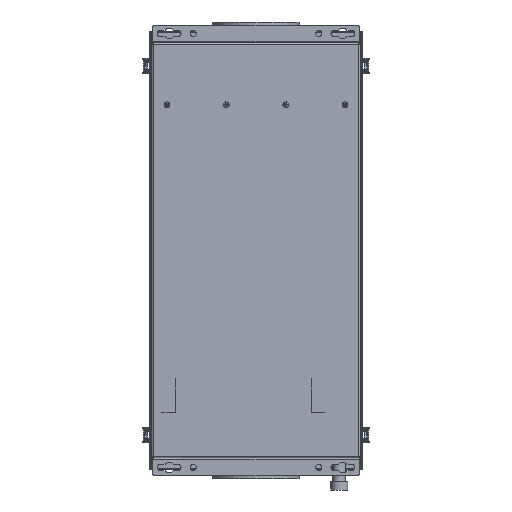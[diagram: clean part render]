
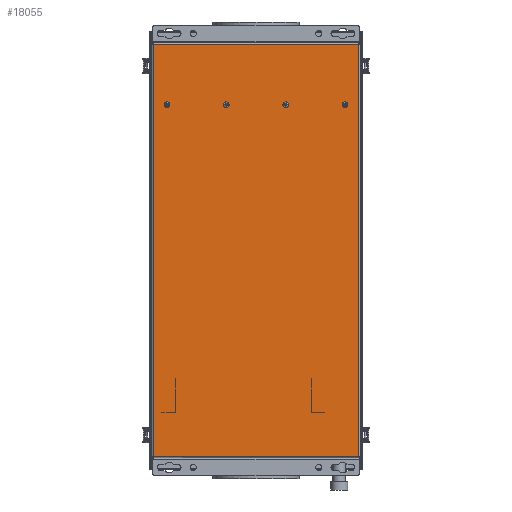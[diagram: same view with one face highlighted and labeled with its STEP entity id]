
A CAD part, front view. The second image highlights one B-rep face of the part: STEP entity #18055.
In plain terms, the highlighted planar face has unit normal (0, -1, 0).
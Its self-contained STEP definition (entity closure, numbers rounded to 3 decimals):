
#86 = EDGE_CURVE ( 'NONE', #4334, #3859, #12005, .T. ) ;
#271 = VERTEX_POINT ( 'NONE', #11266 ) ;
#395 = DIRECTION ( 'NONE',  ( -1., 0., 0. ) ) ;
#560 = ORIENTED_EDGE ( 'NONE', *, *, #17850, .F. ) ;
#1111 = AXIS2_PLACEMENT_3D ( 'NONE', #16011, #1800, #18436 ) ;
#1203 = VERTEX_POINT ( 'NONE', #4747 ) ;
#1277 = CIRCLE ( 'NONE', #28467, 2.1 ) ;
#1800 = DIRECTION ( 'NONE',  ( 0., -1., 0. ) ) ;
#2328 = DIRECTION ( 'NONE',  ( 0., 0., -1. ) ) ;
#2333 = EDGE_CURVE ( 'NONE', #1203, #18651, #9269, .T. ) ;
#2521 = CARTESIAN_POINT ( 'NONE',  ( -148., 0., -297. ) ) ;
#2577 = VERTEX_POINT ( 'NONE', #19123 ) ;
#3272 = CARTESIAN_POINT ( 'NONE',  ( -128., 0., 210. ) ) ;
#3440 = AXIS2_PLACEMENT_3D ( 'NONE', #19420, #5159, #21798 ) ;
#3486 = PLANE ( 'NONE',  #28997 ) ;
#3859 = VERTEX_POINT ( 'NONE', #23173 ) ;
#4174 = CARTESIAN_POINT ( 'NONE',  ( 148., 0., -297. ) ) ;
#4186 = VECTOR ( 'NONE', #395, 1000. ) ;
#4334 = VERTEX_POINT ( 'NONE', #20465 ) ;
#4451 = DIRECTION ( 'NONE',  ( 0., 0., 1. ) ) ;
#4707 = ORIENTED_EDGE ( 'NONE', *, *, #15666, .T. ) ;
#4747 = CARTESIAN_POINT ( 'NONE',  ( -42.667, 0., 212.1 ) ) ;
#4761 = EDGE_CURVE ( 'NONE', #18651, #1203, #24451, .T. ) ;
#5159 = DIRECTION ( 'NONE',  ( 0., -1., 0. ) ) ;
#5218 = AXIS2_PLACEMENT_3D ( 'NONE', #6258, #22875, #8646 ) ;
#5318 = ORIENTED_EDGE ( 'NONE', *, *, #86, .T. ) ;
#5443 = AXIS2_PLACEMENT_3D ( 'NONE', #3272, #19903, #5644 ) ;
#5487 = VECTOR ( 'NONE', #4451, 1000. ) ;
#5644 = DIRECTION ( 'NONE',  ( 0., 0., -1. ) ) ;
#6168 = EDGE_CURVE ( 'NONE', #271, #20555, #1277, .T. ) ;
#6235 = LINE ( 'NONE', #23459, #5487 ) ;
#6258 = CARTESIAN_POINT ( 'NONE',  ( 128., 0., 210. ) ) ;
#6449 = CARTESIAN_POINT ( 'NONE',  ( 128., 0., 207.9 ) ) ;
#6886 = EDGE_LOOP ( 'NONE', ( #24363, #24287 ) ) ;
#7395 = ORIENTED_EDGE ( 'NONE', *, *, #18391, .F. ) ;
#8371 = DIRECTION ( 'NONE',  ( 0., -1., 0. ) ) ;
#8416 = VERTEX_POINT ( 'NONE', #4174 ) ;
#8629 = DIRECTION ( 'NONE',  ( 0., -1., 0. ) ) ;
#8646 = DIRECTION ( 'NONE',  ( 0., 0., -1. ) ) ;
#9250 = VECTOR ( 'NONE', #16278, 1000. ) ;
#9269 = CIRCLE ( 'NONE', #28987, 2.1 ) ;
#10406 = ORIENTED_EDGE ( 'NONE', *, *, #10497, .T. ) ;
#10497 = EDGE_CURVE ( 'NONE', #3859, #16911, #28280, .T. ) ;
#10589 = ORIENTED_EDGE ( 'NONE', *, *, #6168, .F. ) ;
#10678 = DIRECTION ( 'NONE',  ( 0., -1., 0. ) ) ;
#10857 = VERTEX_POINT ( 'NONE', #30017 ) ;
#11232 = CARTESIAN_POINT ( 'NONE',  ( -42.667, 0., 207.9 ) ) ;
#11266 = CARTESIAN_POINT ( 'NONE',  ( -128., 0., 207.9 ) ) ;
#12005 = LINE ( 'NONE', #14590, #4186 ) ;
#12086 = FACE_OUTER_BOUND ( 'NONE', #30132, .T. ) ;
#12373 = EDGE_LOOP ( 'NONE', ( #22951, #25413 ) ) ;
#13970 = CARTESIAN_POINT ( 'NONE',  ( -128., 0., 210. ) ) ;
#14042 = CARTESIAN_POINT ( 'NONE',  ( -128., 0., 212.1 ) ) ;
#14590 = CARTESIAN_POINT ( 'NONE',  ( 148., 0., 297. ) ) ;
#15040 = CIRCLE ( 'NONE', #5218, 2.1 ) ;
#15419 = CARTESIAN_POINT ( 'NONE',  ( 150., 0., 299. ) ) ;
#15666 = EDGE_CURVE ( 'NONE', #8416, #4334, #6235, .T. ) ;
#15950 = EDGE_LOOP ( 'NONE', ( #10589, #7395 ) ) ;
#16011 = CARTESIAN_POINT ( 'NONE',  ( -42.667, 0., 210. ) ) ;
#16278 = DIRECTION ( 'NONE',  ( 0., 0., -1. ) ) ;
#16367 = DIRECTION ( 'NONE',  ( 0., 0., -1. ) ) ;
#16568 = DIRECTION ( 'NONE',  ( 0., -1., 0. ) ) ;
#16602 = VECTOR ( 'NONE', #20924, 1000. ) ;
#16911 = VERTEX_POINT ( 'NONE', #2521 ) ;
#17188 = AXIS2_PLACEMENT_3D ( 'NONE', #30859, #16568, #2328 ) ;
#17208 = EDGE_CURVE ( 'NONE', #21862, #10857, #15040, .T. ) ;
#17379 = AXIS2_PLACEMENT_3D ( 'NONE', #24967, #10678, #27363 ) ;
#17527 = EDGE_CURVE ( 'NONE', #21002, #2577, #18022, .T. ) ;
#17666 = FACE_BOUND ( 'NONE', #15950, .T. ) ;
#17850 = EDGE_CURVE ( 'NONE', #10857, #21862, #29261, .T. ) ;
#18022 = CIRCLE ( 'NONE', #17379, 2.1 ) ;
#18055 = ADVANCED_FACE ( 'NONE', ( #18425, #30353, #12086, #23982, #17666 ), #3486, .T. ) ;
#18188 = EDGE_CURVE ( 'NONE', #2577, #21002, #20272, .T. ) ;
#18391 = EDGE_CURVE ( 'NONE', #20555, #271, #26968, .T. ) ;
#18425 = FACE_BOUND ( 'NONE', #6886, .T. ) ;
#18436 = DIRECTION ( 'NONE',  ( 0., 0., -1. ) ) ;
#18651 = VERTEX_POINT ( 'NONE', #11232 ) ;
#18809 = EDGE_LOOP ( 'NONE', ( #19758, #560 ) ) ;
#19123 = CARTESIAN_POINT ( 'NONE',  ( 42.667, 0., 212.1 ) ) ;
#19420 = CARTESIAN_POINT ( 'NONE',  ( 128., 0., 210. ) ) ;
#19758 = ORIENTED_EDGE ( 'NONE', *, *, #17208, .F. ) ;
#19903 = DIRECTION ( 'NONE',  ( 0., -1., 0. ) ) ;
#20272 = CIRCLE ( 'NONE', #17188, 2.1 ) ;
#20465 = CARTESIAN_POINT ( 'NONE',  ( 148., 0., 297. ) ) ;
#20555 = VERTEX_POINT ( 'NONE', #14042 ) ;
#20924 = DIRECTION ( 'NONE',  ( 1., 0., 0. ) ) ;
#21002 = VERTEX_POINT ( 'NONE', #28102 ) ;
#21122 = ORIENTED_EDGE ( 'NONE', *, *, #23375, .T. ) ;
#21798 = DIRECTION ( 'NONE',  ( 0., 0., -1. ) ) ;
#21862 = VERTEX_POINT ( 'NONE', #6449 ) ;
#22850 = CARTESIAN_POINT ( 'NONE',  ( -42.667, 0., 210. ) ) ;
#22875 = DIRECTION ( 'NONE',  ( 0., -1., 0. ) ) ;
#22951 = ORIENTED_EDGE ( 'NONE', *, *, #4761, .F. ) ;
#23173 = CARTESIAN_POINT ( 'NONE',  ( -148., 0., 297. ) ) ;
#23375 = EDGE_CURVE ( 'NONE', #16911, #8416, #29314, .T. ) ;
#23430 = CARTESIAN_POINT ( 'NONE',  ( -148., 0., 299. ) ) ;
#23459 = CARTESIAN_POINT ( 'NONE',  ( 148., 0., -299. ) ) ;
#23982 = FACE_BOUND ( 'NONE', #12373, .T. ) ;
#24287 = ORIENTED_EDGE ( 'NONE', *, *, #18188, .F. ) ;
#24363 = ORIENTED_EDGE ( 'NONE', *, *, #17527, .F. ) ;
#24451 = CIRCLE ( 'NONE', #1111, 2.1 ) ;
#24967 = CARTESIAN_POINT ( 'NONE',  ( 42.667, 0., 210. ) ) ;
#25022 = DIRECTION ( 'NONE',  ( 0., 0., -1. ) ) ;
#25286 = DIRECTION ( 'NONE',  ( 0., 0., -1. ) ) ;
#25413 = ORIENTED_EDGE ( 'NONE', *, *, #2333, .F. ) ;
#25699 = CARTESIAN_POINT ( 'NONE',  ( -148., 0., -297. ) ) ;
#26968 = CIRCLE ( 'NONE', #5443, 2.1 ) ;
#27363 = DIRECTION ( 'NONE',  ( 0., 0., -1. ) ) ;
#28102 = CARTESIAN_POINT ( 'NONE',  ( 42.667, 0., 207.9 ) ) ;
#28280 = LINE ( 'NONE', #23430, #9250 ) ;
#28467 = AXIS2_PLACEMENT_3D ( 'NONE', #13970, #30653, #16367 ) ;
#28987 = AXIS2_PLACEMENT_3D ( 'NONE', #22850, #8629, #25286 ) ;
#28997 = AXIS2_PLACEMENT_3D ( 'NONE', #15419, #8371, #25022 ) ;
#29261 = CIRCLE ( 'NONE', #3440, 2.1 ) ;
#29314 = LINE ( 'NONE', #25699, #16602 ) ;
#30017 = CARTESIAN_POINT ( 'NONE',  ( 128., 0., 212.1 ) ) ;
#30132 = EDGE_LOOP ( 'NONE', ( #10406, #21122, #4707, #5318 ) ) ;
#30353 = FACE_BOUND ( 'NONE', #18809, .T. ) ;
#30653 = DIRECTION ( 'NONE',  ( 0., -1., 0. ) ) ;
#30859 = CARTESIAN_POINT ( 'NONE',  ( 42.667, 0., 210. ) ) ;
